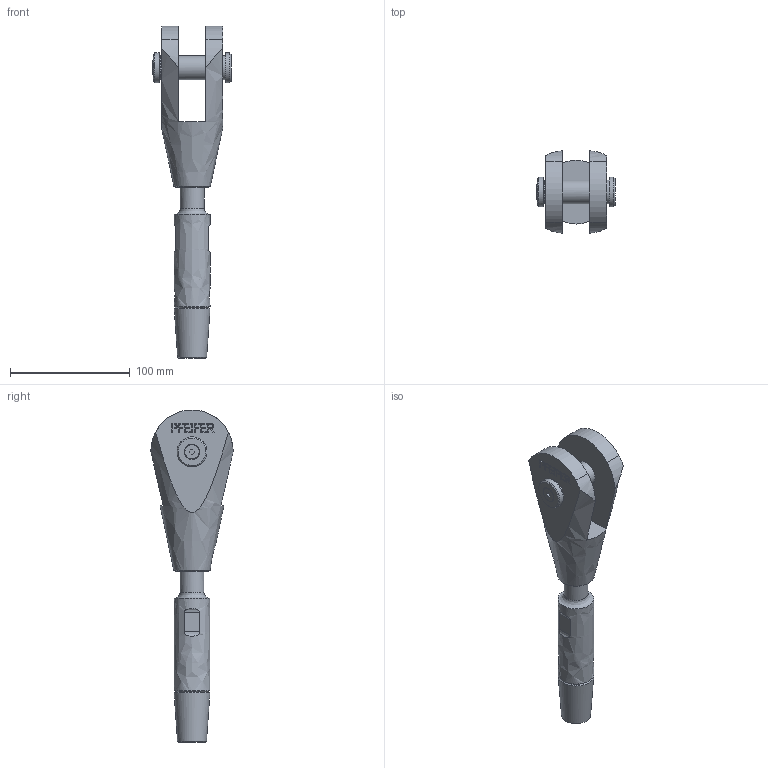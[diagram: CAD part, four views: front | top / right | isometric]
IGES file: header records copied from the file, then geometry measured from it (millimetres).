
Global section: file name: 520-020-GAK-ADA; native system: Autodesk Inventor 2016; preprocessor: unknown; author: Administrator; date: 20200703.130508; units: centimetre
Bounding box: 65.22 x 68.77 x 277.45 mm (x, y, z)
Volume: 277626.6 mm3; surface area: 53000.2 mm2
Topology: 2 solids, 3 shells, 197 faces, 519 edges, 350 vertices
Faces by surface type: bspline 197
